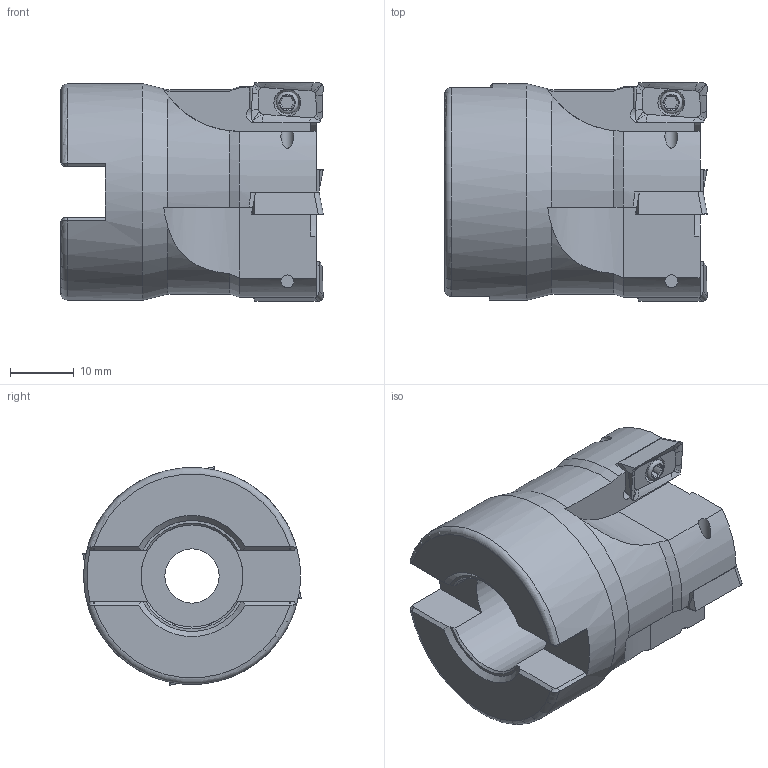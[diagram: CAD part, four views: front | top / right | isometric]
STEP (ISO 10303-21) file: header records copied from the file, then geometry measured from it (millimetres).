
FILE_DESCRIPTION(/* description */ (''),/* implementation_level */ '2;1');
FILE_NAME(/* name */ 'BAP300R35-16-4T.stp',/* time_stamp */ '2024-07-03T09:47:04+03:00',/* author */ ('KanaanMD'),/* organization */ (''),/* preprocessor_version */ 'ST-DEVELOPER v19.2',/* originating_system */ 'Autodesk Inventor 2024',/* authorisation */ '');
FILE_SCHEMA (('AUTOMOTIVE_DESIGN { 1 0 10303 214 3 1 1 }'));
Length unit declared in the file: millimetre
Products named in the file (4): BAP300R35-16-4T; BAP300R35-16-4T_1; болт; Напайка
Assembly tree (9 placements, depth 2):
  BAP300R35-16-4T
    BAP300R35-16-4T_1
    болт  x4
    Напайка  x4
Bounding box: 41.13 x 34.25 x 34.25 mm (x, y, z)
Volume: 23139.5 mm3; surface area: 9189.5 mm2
Topology: 9 solids, 9 shells, 361 faces, 985 edges, 631 vertices
Faces by surface type: plane 121, cylinder 92, bspline 72, cone 70, torus 6
Full cylindrical faces by diameter (mm): 2.013 x4, 2.5 x12, 8.5 x1, 14 x1, 16 x1, 34 x1
Entity records: 6471 total; most frequent: CARTESIAN_POINT 2131, ORIENTED_EDGE 918, DIRECTION 859, EDGE_CURVE 459, AXIS2_PLACEMENT_3D 333, VERTEX_POINT 298, LINE 193, VECTOR 193
